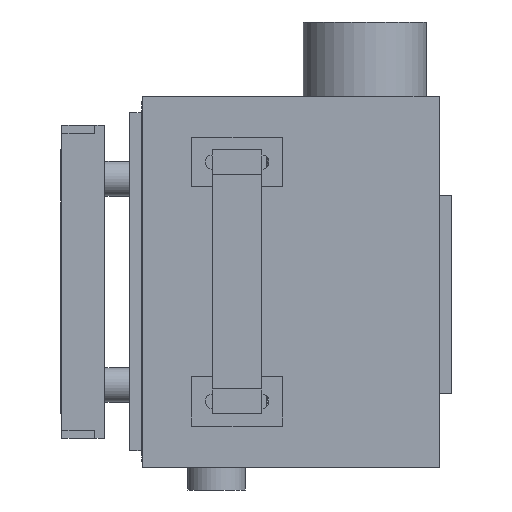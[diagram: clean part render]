
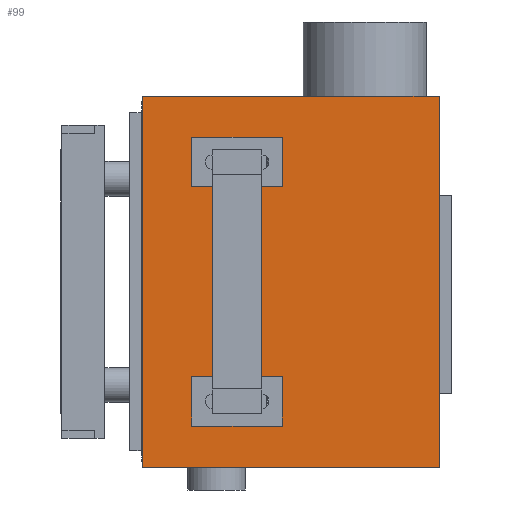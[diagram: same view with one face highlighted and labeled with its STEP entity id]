
A CAD part, left-side view. The second image highlights one B-rep face of the part: STEP entity #99.
In plain terms, the highlighted planar face has unit normal (-1, 0, 0).
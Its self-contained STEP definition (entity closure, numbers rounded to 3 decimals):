
#99 = ADVANCED_FACE('',(#100,#219,#250,#281,#312),#114,.F.);
#100 = FACE_BOUND('',#101,.F.);
#101 = EDGE_LOOP('',(#102,#137,#165,#193));
#102 = ORIENTED_EDGE('',*,*,#103,.F.);
#103 = EDGE_CURVE('',#104,#106,#108,.T.);
#104 = VERTEX_POINT('',#105);
#105 = CARTESIAN_POINT('',(-120.,-36.,0.));
#106 = VERTEX_POINT('',#107);
#107 = CARTESIAN_POINT('',(-120.,-36.,90.));
#108 = SURFACE_CURVE('',#109,(#113,#125),.PCURVE_S1.);
#109 = LINE('',#110,#111);
#110 = CARTESIAN_POINT('',(-120.,-36.,0.));
#111 = VECTOR('',#112,1.);
#112 = DIRECTION('',(0.,0.,1.));
#113 = PCURVE('',#114,#119);
#114 = PLANE('',#115);
#115 = AXIS2_PLACEMENT_3D('',#116,#117,#118);
#116 = CARTESIAN_POINT('',(-120.,-36.,0.));
#117 = DIRECTION('',(1.,0.,-0.));
#118 = DIRECTION('',(0.,0.,1.));
#119 = DEFINITIONAL_REPRESENTATION('',(#120),#124);
#120 = LINE('',#121,#122);
#121 = CARTESIAN_POINT('',(0.,0.));
#122 = VECTOR('',#123,1.);
#123 = DIRECTION('',(1.,0.));
#124 = ( GEOMETRIC_REPRESENTATION_CONTEXT(2) 
PARAMETRIC_REPRESENTATION_CONTEXT() REPRESENTATION_CONTEXT('2D SPACE',''
  ) );
#125 = PCURVE('',#126,#131);
#126 = PLANE('',#127);
#127 = AXIS2_PLACEMENT_3D('',#128,#129,#130);
#128 = CARTESIAN_POINT('',(-120.,-36.,0.));
#129 = DIRECTION('',(-0.,1.,0.));
#130 = DIRECTION('',(0.,0.,1.));
#131 = DEFINITIONAL_REPRESENTATION('',(#132),#136);
#132 = LINE('',#133,#134);
#133 = CARTESIAN_POINT('',(0.,0.));
#134 = VECTOR('',#135,1.);
#135 = DIRECTION('',(1.,0.));
#136 = ( GEOMETRIC_REPRESENTATION_CONTEXT(2) 
PARAMETRIC_REPRESENTATION_CONTEXT() REPRESENTATION_CONTEXT('2D SPACE',''
  ) );
#137 = ORIENTED_EDGE('',*,*,#138,.T.);
#138 = EDGE_CURVE('',#104,#139,#141,.T.);
#139 = VERTEX_POINT('',#140);
#140 = CARTESIAN_POINT('',(-120.,36.,0.));
#141 = SURFACE_CURVE('',#142,(#146,#153),.PCURVE_S1.);
#142 = LINE('',#143,#144);
#143 = CARTESIAN_POINT('',(-120.,-36.,0.));
#144 = VECTOR('',#145,1.);
#145 = DIRECTION('',(-0.,1.,0.));
#146 = PCURVE('',#114,#147);
#147 = DEFINITIONAL_REPRESENTATION('',(#148),#152);
#148 = LINE('',#149,#150);
#149 = CARTESIAN_POINT('',(0.,0.));
#150 = VECTOR('',#151,1.);
#151 = DIRECTION('',(0.,-1.));
#152 = ( GEOMETRIC_REPRESENTATION_CONTEXT(2) 
PARAMETRIC_REPRESENTATION_CONTEXT() REPRESENTATION_CONTEXT('2D SPACE',''
  ) );
#153 = PCURVE('',#154,#159);
#154 = PLANE('',#155);
#155 = AXIS2_PLACEMENT_3D('',#156,#157,#158);
#156 = CARTESIAN_POINT('',(-120.,-36.,0.));
#157 = DIRECTION('',(0.,0.,1.));
#158 = DIRECTION('',(1.,0.,-0.));
#159 = DEFINITIONAL_REPRESENTATION('',(#160),#164);
#160 = LINE('',#161,#162);
#161 = CARTESIAN_POINT('',(0.,0.));
#162 = VECTOR('',#163,1.);
#163 = DIRECTION('',(0.,1.));
#164 = ( GEOMETRIC_REPRESENTATION_CONTEXT(2) 
PARAMETRIC_REPRESENTATION_CONTEXT() REPRESENTATION_CONTEXT('2D SPACE',''
  ) );
#165 = ORIENTED_EDGE('',*,*,#166,.T.);
#166 = EDGE_CURVE('',#139,#167,#169,.T.);
#167 = VERTEX_POINT('',#168);
#168 = CARTESIAN_POINT('',(-120.,36.,90.));
#169 = SURFACE_CURVE('',#170,(#174,#181),.PCURVE_S1.);
#170 = LINE('',#171,#172);
#171 = CARTESIAN_POINT('',(-120.,36.,0.));
#172 = VECTOR('',#173,1.);
#173 = DIRECTION('',(0.,0.,1.));
#174 = PCURVE('',#114,#175);
#175 = DEFINITIONAL_REPRESENTATION('',(#176),#180);
#176 = LINE('',#177,#178);
#177 = CARTESIAN_POINT('',(0.,-72.));
#178 = VECTOR('',#179,1.);
#179 = DIRECTION('',(1.,0.));
#180 = ( GEOMETRIC_REPRESENTATION_CONTEXT(2) 
PARAMETRIC_REPRESENTATION_CONTEXT() REPRESENTATION_CONTEXT('2D SPACE',''
  ) );
#181 = PCURVE('',#182,#187);
#182 = PLANE('',#183);
#183 = AXIS2_PLACEMENT_3D('',#184,#185,#186);
#184 = CARTESIAN_POINT('',(-120.,36.,0.));
#185 = DIRECTION('',(-0.,1.,0.));
#186 = DIRECTION('',(0.,0.,1.));
#187 = DEFINITIONAL_REPRESENTATION('',(#188),#192);
#188 = LINE('',#189,#190);
#189 = CARTESIAN_POINT('',(0.,0.));
#190 = VECTOR('',#191,1.);
#191 = DIRECTION('',(1.,0.));
#192 = ( GEOMETRIC_REPRESENTATION_CONTEXT(2) 
PARAMETRIC_REPRESENTATION_CONTEXT() REPRESENTATION_CONTEXT('2D SPACE',''
  ) );
#193 = ORIENTED_EDGE('',*,*,#194,.F.);
#194 = EDGE_CURVE('',#106,#167,#195,.T.);
#195 = SURFACE_CURVE('',#196,(#200,#207),.PCURVE_S1.);
#196 = LINE('',#197,#198);
#197 = CARTESIAN_POINT('',(-120.,-36.,90.));
#198 = VECTOR('',#199,1.);
#199 = DIRECTION('',(-0.,1.,0.));
#200 = PCURVE('',#114,#201);
#201 = DEFINITIONAL_REPRESENTATION('',(#202),#206);
#202 = LINE('',#203,#204);
#203 = CARTESIAN_POINT('',(90.,0.));
#204 = VECTOR('',#205,1.);
#205 = DIRECTION('',(0.,-1.));
#206 = ( GEOMETRIC_REPRESENTATION_CONTEXT(2) 
PARAMETRIC_REPRESENTATION_CONTEXT() REPRESENTATION_CONTEXT('2D SPACE',''
  ) );
#207 = PCURVE('',#208,#213);
#208 = PLANE('',#209);
#209 = AXIS2_PLACEMENT_3D('',#210,#211,#212);
#210 = CARTESIAN_POINT('',(-120.,-36.,90.));
#211 = DIRECTION('',(0.,0.,1.));
#212 = DIRECTION('',(1.,0.,-0.));
#213 = DEFINITIONAL_REPRESENTATION('',(#214),#218);
#214 = LINE('',#215,#216);
#215 = CARTESIAN_POINT('',(0.,0.));
#216 = VECTOR('',#217,1.);
#217 = DIRECTION('',(0.,1.));
#218 = ( GEOMETRIC_REPRESENTATION_CONTEXT(2) 
PARAMETRIC_REPRESENTATION_CONTEXT() REPRESENTATION_CONTEXT('2D SPACE',''
  ) );
#219 = FACE_BOUND('',#220,.F.);
#220 = EDGE_LOOP('',(#221));
#221 = ORIENTED_EDGE('',*,*,#222,.F.);
#222 = EDGE_CURVE('',#223,#223,#225,.T.);
#223 = VERTEX_POINT('',#224);
#224 = CARTESIAN_POINT('',(-120.,19.,20.4));
#225 = SURFACE_CURVE('',#226,(#231,#238),.PCURVE_S1.);
#226 = CIRCLE('',#227,4.4);
#227 = AXIS2_PLACEMENT_3D('',#228,#229,#230);
#228 = CARTESIAN_POINT('',(-120.,19.,16.));
#229 = DIRECTION('',(1.,0.,0.));
#230 = DIRECTION('',(-0.,0.,1.));
#231 = PCURVE('',#114,#232);
#232 = DEFINITIONAL_REPRESENTATION('',(#233),#237);
#233 = CIRCLE('',#234,4.4);
#234 = AXIS2_PLACEMENT_2D('',#235,#236);
#235 = CARTESIAN_POINT('',(16.,-55.));
#236 = DIRECTION('',(1.,0.));
#237 = ( GEOMETRIC_REPRESENTATION_CONTEXT(2) 
PARAMETRIC_REPRESENTATION_CONTEXT() REPRESENTATION_CONTEXT('2D SPACE',''
  ) );
#238 = PCURVE('',#239,#244);
#239 = CYLINDRICAL_SURFACE('',#240,4.4);
#240 = AXIS2_PLACEMENT_3D('',#241,#242,#243);
#241 = CARTESIAN_POINT('',(-120.2,19.,16.));
#242 = DIRECTION('',(1.,0.,0.));
#243 = DIRECTION('',(-0.,0.,1.));
#244 = DEFINITIONAL_REPRESENTATION('',(#245),#249);
#245 = LINE('',#246,#247);
#246 = CARTESIAN_POINT('',(0.,0.2));
#247 = VECTOR('',#248,1.);
#248 = DIRECTION('',(1.,0.));
#249 = ( GEOMETRIC_REPRESENTATION_CONTEXT(2) 
PARAMETRIC_REPRESENTATION_CONTEXT() REPRESENTATION_CONTEXT('2D SPACE',''
  ) );
#250 = FACE_BOUND('',#251,.F.);
#251 = EDGE_LOOP('',(#252));
#252 = ORIENTED_EDGE('',*,*,#253,.F.);
#253 = EDGE_CURVE('',#254,#254,#256,.T.);
#254 = VERTEX_POINT('',#255);
#255 = CARTESIAN_POINT('',(-120.,19.,78.4));
#256 = SURFACE_CURVE('',#257,(#262,#269),.PCURVE_S1.);
#257 = CIRCLE('',#258,4.4);
#258 = AXIS2_PLACEMENT_3D('',#259,#260,#261);
#259 = CARTESIAN_POINT('',(-120.,19.,74.));
#260 = DIRECTION('',(1.,0.,0.));
#261 = DIRECTION('',(-0.,0.,1.));
#262 = PCURVE('',#114,#263);
#263 = DEFINITIONAL_REPRESENTATION('',(#264),#268);
#264 = CIRCLE('',#265,4.4);
#265 = AXIS2_PLACEMENT_2D('',#266,#267);
#266 = CARTESIAN_POINT('',(74.,-55.));
#267 = DIRECTION('',(1.,0.));
#268 = ( GEOMETRIC_REPRESENTATION_CONTEXT(2) 
PARAMETRIC_REPRESENTATION_CONTEXT() REPRESENTATION_CONTEXT('2D SPACE',''
  ) );
#269 = PCURVE('',#270,#275);
#270 = CYLINDRICAL_SURFACE('',#271,4.4);
#271 = AXIS2_PLACEMENT_3D('',#272,#273,#274);
#272 = CARTESIAN_POINT('',(-120.2,19.,74.));
#273 = DIRECTION('',(1.,0.,0.));
#274 = DIRECTION('',(-0.,0.,1.));
#275 = DEFINITIONAL_REPRESENTATION('',(#276),#280);
#276 = LINE('',#277,#278);
#277 = CARTESIAN_POINT('',(0.,0.2));
#278 = VECTOR('',#279,1.);
#279 = DIRECTION('',(1.,0.));
#280 = ( GEOMETRIC_REPRESENTATION_CONTEXT(2) 
PARAMETRIC_REPRESENTATION_CONTEXT() REPRESENTATION_CONTEXT('2D SPACE',''
  ) );
#281 = FACE_BOUND('',#282,.F.);
#282 = EDGE_LOOP('',(#283));
#283 = ORIENTED_EDGE('',*,*,#284,.F.);
#284 = EDGE_CURVE('',#285,#285,#287,.T.);
#285 = VERTEX_POINT('',#286);
#286 = CARTESIAN_POINT('',(-120.,7.,20.4));
#287 = SURFACE_CURVE('',#288,(#293,#300),.PCURVE_S1.);
#288 = CIRCLE('',#289,4.4);
#289 = AXIS2_PLACEMENT_3D('',#290,#291,#292);
#290 = CARTESIAN_POINT('',(-120.,7.,16.));
#291 = DIRECTION('',(1.,0.,0.));
#292 = DIRECTION('',(-0.,0.,1.));
#293 = PCURVE('',#114,#294);
#294 = DEFINITIONAL_REPRESENTATION('',(#295),#299);
#295 = CIRCLE('',#296,4.4);
#296 = AXIS2_PLACEMENT_2D('',#297,#298);
#297 = CARTESIAN_POINT('',(16.,-43.));
#298 = DIRECTION('',(1.,0.));
#299 = ( GEOMETRIC_REPRESENTATION_CONTEXT(2) 
PARAMETRIC_REPRESENTATION_CONTEXT() REPRESENTATION_CONTEXT('2D SPACE',''
  ) );
#300 = PCURVE('',#301,#306);
#301 = CYLINDRICAL_SURFACE('',#302,4.4);
#302 = AXIS2_PLACEMENT_3D('',#303,#304,#305);
#303 = CARTESIAN_POINT('',(-120.2,7.,16.));
#304 = DIRECTION('',(1.,0.,0.));
#305 = DIRECTION('',(-0.,0.,1.));
#306 = DEFINITIONAL_REPRESENTATION('',(#307),#311);
#307 = LINE('',#308,#309);
#308 = CARTESIAN_POINT('',(0.,0.2));
#309 = VECTOR('',#310,1.);
#310 = DIRECTION('',(1.,0.));
#311 = ( GEOMETRIC_REPRESENTATION_CONTEXT(2) 
PARAMETRIC_REPRESENTATION_CONTEXT() REPRESENTATION_CONTEXT('2D SPACE',''
  ) );
#312 = FACE_BOUND('',#313,.F.);
#313 = EDGE_LOOP('',(#314));
#314 = ORIENTED_EDGE('',*,*,#315,.F.);
#315 = EDGE_CURVE('',#316,#316,#318,.T.);
#316 = VERTEX_POINT('',#317);
#317 = CARTESIAN_POINT('',(-120.,7.,78.4));
#318 = SURFACE_CURVE('',#319,(#324,#331),.PCURVE_S1.);
#319 = CIRCLE('',#320,4.4);
#320 = AXIS2_PLACEMENT_3D('',#321,#322,#323);
#321 = CARTESIAN_POINT('',(-120.,7.,74.));
#322 = DIRECTION('',(1.,0.,0.));
#323 = DIRECTION('',(-0.,0.,1.));
#324 = PCURVE('',#114,#325);
#325 = DEFINITIONAL_REPRESENTATION('',(#326),#330);
#326 = CIRCLE('',#327,4.4);
#327 = AXIS2_PLACEMENT_2D('',#328,#329);
#328 = CARTESIAN_POINT('',(74.,-43.));
#329 = DIRECTION('',(1.,0.));
#330 = ( GEOMETRIC_REPRESENTATION_CONTEXT(2) 
PARAMETRIC_REPRESENTATION_CONTEXT() REPRESENTATION_CONTEXT('2D SPACE',''
  ) );
#331 = PCURVE('',#332,#337);
#332 = CYLINDRICAL_SURFACE('',#333,4.4);
#333 = AXIS2_PLACEMENT_3D('',#334,#335,#336);
#334 = CARTESIAN_POINT('',(-120.2,7.,74.));
#335 = DIRECTION('',(1.,0.,0.));
#336 = DIRECTION('',(-0.,0.,1.));
#337 = DEFINITIONAL_REPRESENTATION('',(#338),#342);
#338 = LINE('',#339,#340);
#339 = CARTESIAN_POINT('',(0.,0.2));
#340 = VECTOR('',#341,1.);
#341 = DIRECTION('',(1.,0.));
#342 = ( GEOMETRIC_REPRESENTATION_CONTEXT(2) 
PARAMETRIC_REPRESENTATION_CONTEXT() REPRESENTATION_CONTEXT('2D SPACE',''
  ) );
